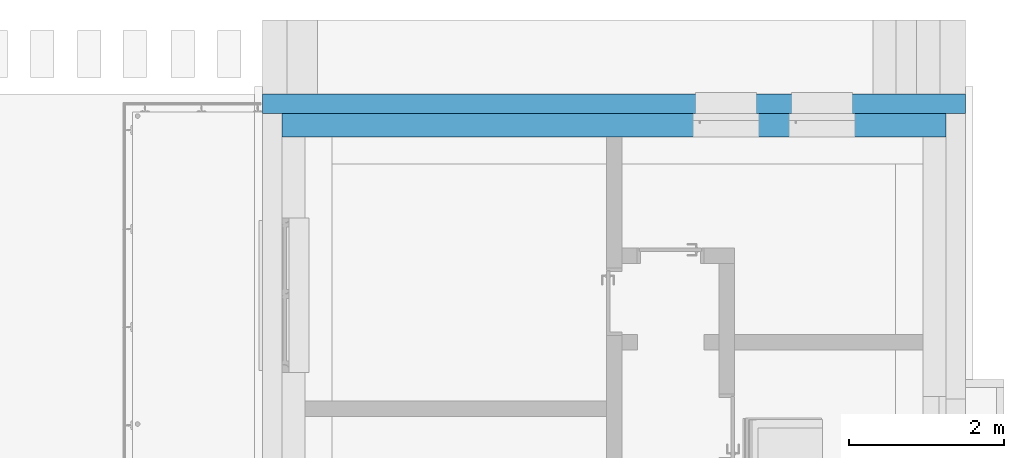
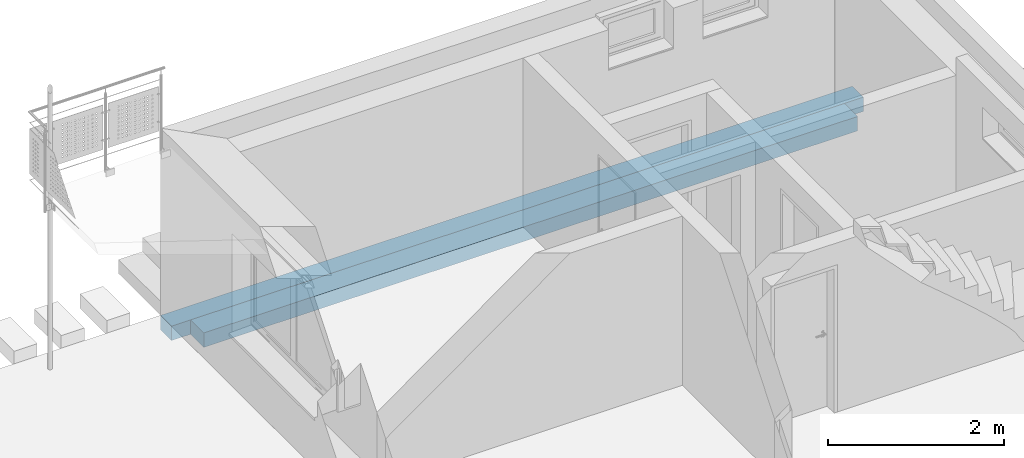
# One storey, part 8 of 22: 2 walls.
"""IFC2X3 building model written with IfcOpenShell, lengths in metres."""

from ifc_helpers import new_model, entity, si_unit, converted_unit, derived_unit, direction, frame, frame_2d, origin, place, context, subcontext, project, spatial, rectangle, extrude, material, layer, layer_set, layer_usage, type_object, element, save


model = new_model("IFC2X3")

# Units and contexts
model_context = context("Model", 3, precision=1e-05, world=origin(), true_north=direction((6.123233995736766e-17, 1.0)))
body_context = subcontext(model_context, "Body", "Model", "MODEL_VIEW")
ifc_project = project(units=[si_unit("LENGTHUNIT", "METRE"), si_unit("AREAUNIT", "SQUARE_METRE"), si_unit("VOLUMEUNIT", "CUBIC_METRE"), si_unit("POWERUNIT", "WATT"), derived_unit("USERDEFINED", [(si_unit("MASSUNIT", "GRAM", prefix="KILO"), 1), (si_unit("TIMEUNIT", "SECOND"), -3)]), derived_unit("THERMALRESISTANCEUNIT", [(si_unit("MASSUNIT", "GRAM", prefix="KILO"), -1), (si_unit("TIMEUNIT", "SECOND"), 3), (si_unit("THERMODYNAMICTEMPERATUREUNIT", "KELVIN"), 1)]), derived_unit("USERDEFINED", [(si_unit("MASSUNIT", "GRAM", prefix="KILO"), 1), (si_unit("TIMEUNIT", "SECOND"), -2), (si_unit("THERMODYNAMICTEMPERATUREUNIT", "KELVIN"), -1)]), derived_unit("THERMALTRANSMITTANCEUNIT", [(si_unit("MASSUNIT", "GRAM", prefix="KILO"), 1), (si_unit("TIMEUNIT", "SECOND"), -3), (si_unit("THERMODYNAMICTEMPERATUREUNIT", "KELVIN"), -1)]), converted_unit("PLANEANGLEUNIT", "DEGREE", entity("IfcPlaneAngleMeasure", 0.017453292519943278), si_unit("PLANEANGLEUNIT", "RADIAN"), dimensions=[0, 0, 0, 0, 0, 0, 0]), derived_unit("MOMENTOFINERTIAUNIT", [(si_unit("LENGTHUNIT", "METRE"), 4)])], contexts=[model_context])

# Site, building, storey
site_placement = place(None, origin())
site = spatial("IfcSite", under=ifc_project, at=site_placement, Name="Default", CompositionType="ELEMENT")
building_placement = place(site_placement, origin())
building = spatial("IfcBuilding", under=site, at=building_placement, CompositionType="ELEMENT")
storey_placement = place(building_placement, origin())
storey = spatial("IfcBuildingStorey", under=building, at=storey_placement, Name="Untergeschoss", CompositionType="ELEMENT", Elevation=0.0)

# Walls
ifc_material_1 = material(Name="Dämmung - weich")
ifc_layer_1 = layer(ifc_material_1, 0.24999999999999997)
ifc_layer_set_1 = layer_set([ifc_layer_1], Name="Basiswand:WD weich 250")
ifc_layer_usage_1 = layer_usage(ifc_layer_set_1, "AXIS2", "POSITIVE", -0.12499999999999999)
wall_type_1 = type_object("IfcWallType", Name="Basiswand:WD weich 250", PredefinedType="STANDARD", material=ifc_layer_set_1)
wall_1_placement = place(storey_placement, frame((29.53672000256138, 28.46727237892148, -0.2)))
element("IfcWallStandardCase", 1, at=wall_1_placement, inside=storey, type_object=wall_type_1, material=ifc_layer_usage_1, Name="Basiswand:WD weich 250", ObjectType="Basiswand:WD weich 250", context=body_context, shape_type="SweptSolid", body=[
    extrude(rectangle(XDim=9.090000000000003, YDim=0.25000000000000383, at=frame_2d((4.545000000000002, 0.0), x_axis=(-1.0, 0.0))), origin(), (0.0, 0.0, 1.0), 0.2),
])
ifc_material_2 = material(Name="Ortbeton - bewehrt Verputzt")
ifc_layer_2 = layer(ifc_material_2, 0.29999999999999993)
ifc_layer_set_2 = layer_set([ifc_layer_2], Name="Basiswand:STB 300")
ifc_layer_usage_2 = layer_usage(ifc_layer_set_2, "AXIS2", "POSITIVE", -0.14999999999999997)
wall_type_2 = type_object("IfcWallType", Name="Basiswand:STB 300", PredefinedType="STANDARD", material=ifc_layer_set_2)
wall_2_placement = place(storey_placement, frame((29.78672000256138, 28.192272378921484, -0.2)))
element("IfcWallStandardCase", 2, at=wall_2_placement, inside=storey, type_object=wall_type_2, material=ifc_layer_usage_2, Name="Basiswand:STB 300", ObjectType="Basiswand:STB 300", context=body_context, shape_type="SweptSolid", body=[
    extrude(rectangle(XDim=8.590000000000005, YDim=0.3000000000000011, at=frame_2d((4.295000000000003, 0.0), x_axis=(-1.0, 0.0))), origin(), (0.0, 0.0, 1.0), 0.2),
])

save(model, "model.ifc")
